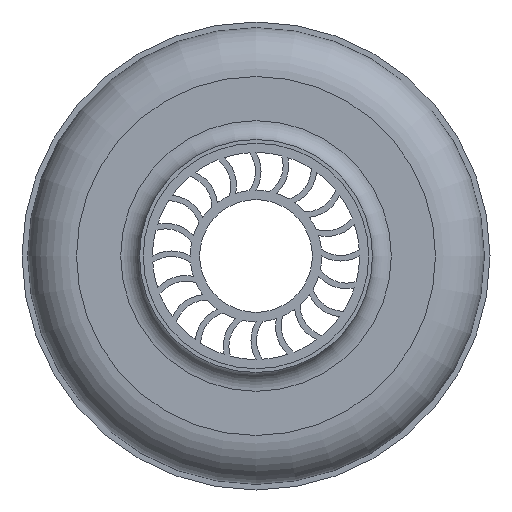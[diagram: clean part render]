
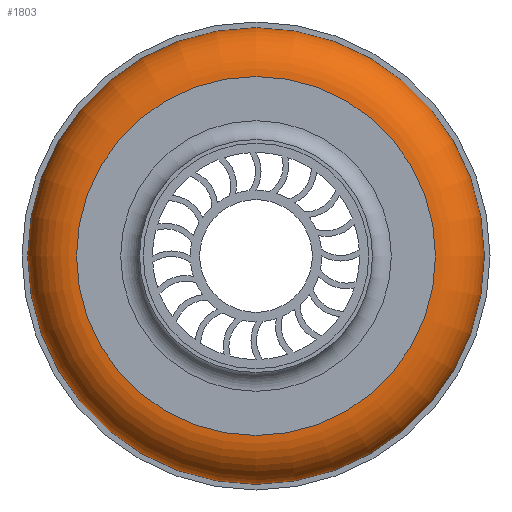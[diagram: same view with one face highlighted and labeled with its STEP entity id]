
A CAD part, left-side view. The second image highlights one B-rep face of the part: STEP entity #1803.
In plain terms, the highlighted toroidal (fillet/blend) face has major radius 95.5 mm and minor radius 26 mm.
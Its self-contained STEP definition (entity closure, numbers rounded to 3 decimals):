
#180=TOROIDAL_SURFACE('',#1926,95.5,26.);
#199=FACE_BOUND('',#378,.T.);
#265=FACE_OUTER_BOUND('',#377,.T.);
#377=EDGE_LOOP('',(#1187));
#378=EDGE_LOOP('',(#1188));
#541=CIRCLE('',#1920,121.5);
#544=CIRCLE('',#1925,95.5);
#727=VERTEX_POINT('',#2883);
#730=VERTEX_POINT('',#2891);
#913=EDGE_CURVE('',#727,#727,#541,.T.);
#916=EDGE_CURVE('',#730,#730,#544,.T.);
#1187=ORIENTED_EDGE('',*,*,#913,.F.);
#1188=ORIENTED_EDGE('',*,*,#916,.T.);
#1803=ADVANCED_FACE('',(#265,#199),#180,.T.);
#1920=AXIS2_PLACEMENT_3D('',#2884,#2222,#2223);
#1925=AXIS2_PLACEMENT_3D('',#2892,#2232,#2233);
#1926=AXIS2_PLACEMENT_3D('',#2893,#2234,#2235);
#2222=DIRECTION('center_axis',(1.,0.,0.));
#2223=DIRECTION('ref_axis',(0.,0.,-1.));
#2232=DIRECTION('center_axis',(1.,0.,0.));
#2233=DIRECTION('ref_axis',(0.,0.,-1.));
#2234=DIRECTION('center_axis',(1.,0.,0.));
#2235=DIRECTION('ref_axis',(0.,0.,-1.));
#2883=CARTESIAN_POINT('',(53.,121.5,0.));
#2884=CARTESIAN_POINT('Origin',(53.,0.,0.));
#2891=CARTESIAN_POINT('',(27.,95.5,0.));
#2892=CARTESIAN_POINT('Origin',(27.,0.,0.));
#2893=CARTESIAN_POINT('Origin',(53.,0.,0.));
